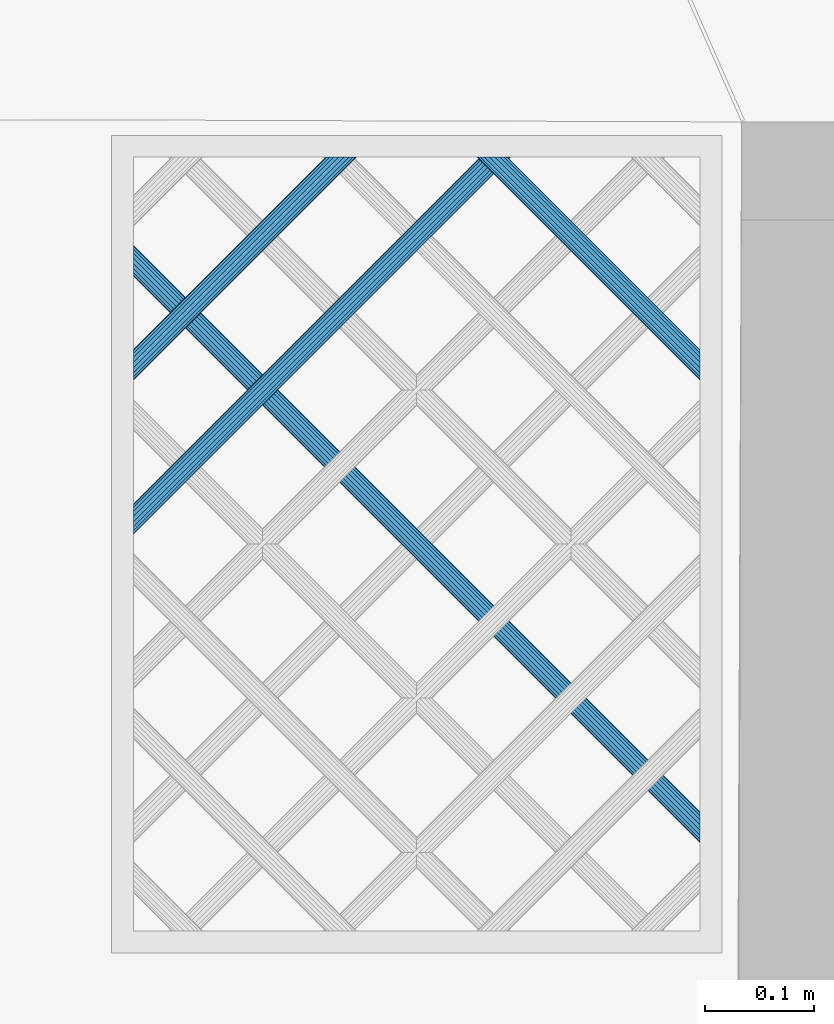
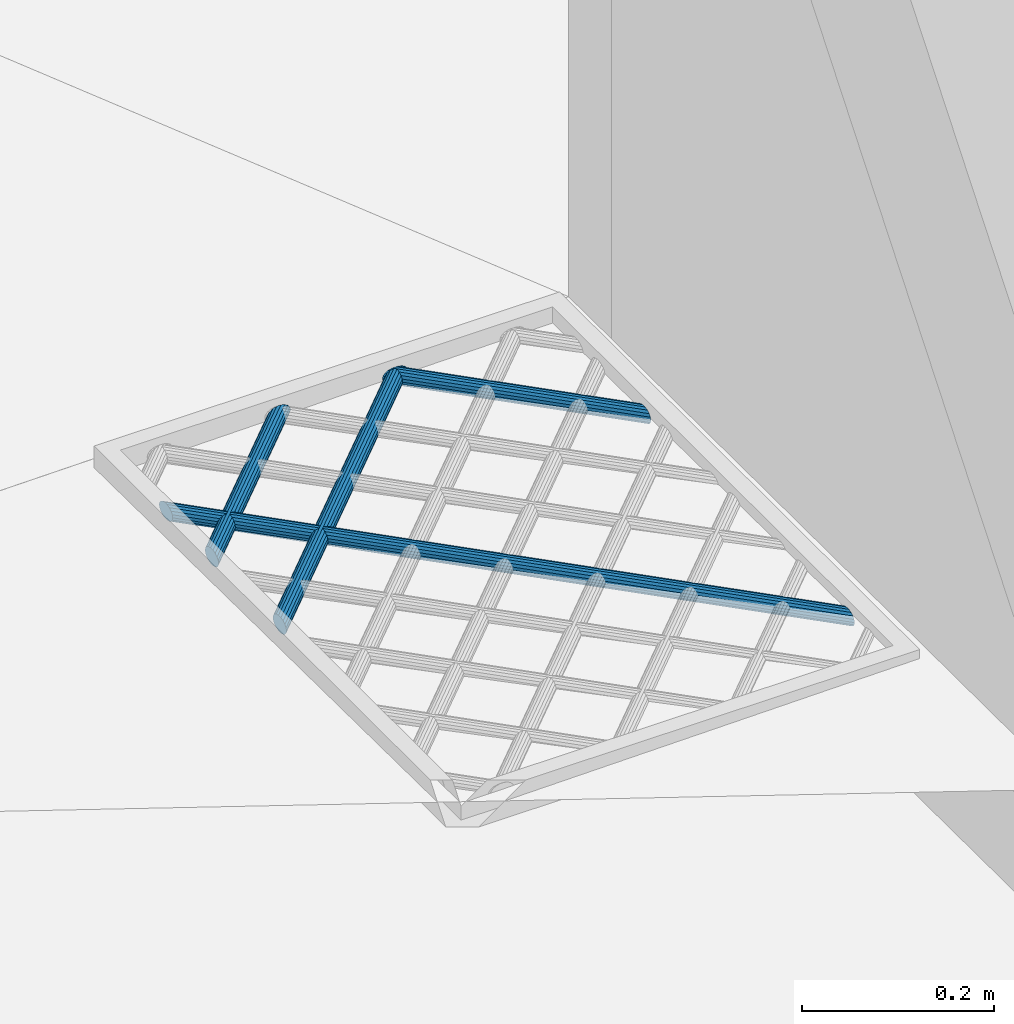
# One storey, part 54 of 133: 4 members, 1 element without a shape of its own.
"""IFC2X3 building model written with IfcOpenShell, lengths in centimetres."""

from ifc_helpers import new_model, entity, si_unit, converted_unit, direction, frame, origin, origin_with_axes, place, context, subcontext, project, spatial, faceted_brep, material, type_object, element, aggregate, save


model = new_model("IFC2X3")

# Units and contexts
model_context = context("Model", 3, precision=0.0001, world=origin(), true_north=direction((0.225632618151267, 0.974212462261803, 0.0)))
body_context = subcontext(model_context, "Body", "Model", "MODEL_VIEW")
ifc_project = project(units=[si_unit("LENGTHUNIT", "METRE", prefix="CENTI"), si_unit("AREAUNIT", "SQUARE_METRE", prefix="CENTI"), si_unit("VOLUMEUNIT", "CUBIC_METRE", prefix="CENTI"), converted_unit("PLANEANGLEUNIT", "DEGREE", entity("IfcRatioMeasure", 0.0174532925), si_unit("PLANEANGLEUNIT", "RADIAN"), dimensions=[0, 0, 0, 0, 0, 0, 0])], contexts=[model_context])

# Site, building, storey
site_placement = place(None, origin_with_axes())
site = spatial("IfcSite", under=ifc_project, at=site_placement, Name="Default Site", CompositionType="ELEMENT")
building_placement = place(site_placement, origin_with_axes())
building = spatial("IfcBuilding", under=site, at=building_placement, Name="Default Building", CompositionType="ELEMENT")
storey_placement = place(building_placement, frame((0.0, 0.0, -291.400371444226), z_axis=(0.0, 0.0, 1.0), x_axis=(1.0, 0.0, 0.0)))
storey = spatial("IfcBuildingStorey", under=building, at=storey_placement, Name="Rez-de-Jardin", CompositionType="ELEMENT", Elevation=-291.400371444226)

# Assembly, members
building_element_proxy_type = type_object("IfcBuildingElementProxyType", Name="Type Object", PredefinedType="NOTDEFINED")
assembly_placement = place(storey_placement, frame((-1322.94034957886, 694.801568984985, 108.0), z_axis=(0.0, 1.0, -2.38697950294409e-15), x_axis=(1.0, 0.0, 0.0)))
assembly = element("IfcElementAssembly", 1, at=assembly_placement, inside=storey, type_object=building_element_proxy_type, Name="Panneau 303645", ObjectType="Precast panel", PredefinedType="USERDEFINED")
ifc_material = material(Name="Aluminium satiné")
member_1_placement = place(assembly_placement, frame((22.4025189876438, 0.342020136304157, 73.0000019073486), z_axis=(1.16937634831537e-15, -1.43218776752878e-15, 1.0), x_axis=(0.632455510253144, -0.774596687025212, -1.84894641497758e-15)))
member_1 = element("IfcMember", 2, at=member_1_placement, material=ifc_material, Name="4294966981", context=body_context, shape_type="Brep", body=[
    faceted_brep([(6.66133814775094e-14, -2.22044604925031e-14, 5.55111512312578e-14), (-0.388289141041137, -2.22044604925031e-14, 5.4793225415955e-14), (-0.799165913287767, -0.150249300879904, 5.4033536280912e-14), (-1.18307196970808, -0.432624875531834, 5.33237145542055e-14), (-1.49370326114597, -0.813068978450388, 5.27493739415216e-14), (-1.69359245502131, -1.24569368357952, 5.2379789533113e-14), (-1.75863072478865, -1.67831892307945, 5.22595372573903e-14), (-1.68097287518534, -2.058763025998, 5.24031224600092e-14), (-1.46998625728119, -2.34113956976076, 5.27932254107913e-14), (-1.15111754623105, -2.49138806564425, 5.3382796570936e-14), (-0.76282840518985, -2.49138806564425, 5.41007223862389e-14), (-0.35195163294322, -2.34113876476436, 5.48604115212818e-14), (0.031954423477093, -2.05876319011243, 5.55702332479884e-14), (0.342585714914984, -1.67831908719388, 5.61445738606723e-14), (0.542474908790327, -1.24569438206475, 5.65141582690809e-14), (0.607513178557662, -0.813069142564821, 5.66344105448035e-14), (0.529855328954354, -0.432625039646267, 5.64908253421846e-14), (0.318868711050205, -0.150248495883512, 5.61007223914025e-14), (-12.6387579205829, -16.0200361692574, -20.4878091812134), (-12.3738302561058, -16.2363486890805, -20.4025208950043), (-12.1408567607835, -16.4265707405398, -20.1569437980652), (-11.9679375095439, -16.5677587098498, -19.7807013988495), (-11.8759290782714, -16.6428832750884, -19.3191707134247), (-11.8759290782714, -16.6428832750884, -18.8280165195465), (-11.9679375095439, -16.5677587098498, -18.3664858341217), (-12.1408567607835, -16.4265707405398, -17.990243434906), (-12.3738302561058, -16.2363486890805, -17.7446663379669), (-12.6387579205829, -16.0200361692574, -17.6593840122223), (-12.9036855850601, -15.8037236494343, -17.7446663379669), (-13.1366590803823, -15.613501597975, -17.990243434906), (-13.309578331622, -15.4723136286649, -18.3664858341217), (-13.4015867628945, -15.3971890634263, -18.8280165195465), (-13.4015867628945, -15.3971890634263, -19.3191707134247), (-13.309578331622, -15.4723136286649, -19.7807013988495), (-13.1366590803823, -15.613501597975, -20.1569437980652), (-12.9036855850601, -15.8037236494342, -20.4025208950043), (0.318868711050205, -0.150248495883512, 5.55111512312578e-14), (0.529855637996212, -0.432624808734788, -3.74318436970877e-07), (-12.3738306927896, -16.2363490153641, -20.402520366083), (-12.6387586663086, -16.0200367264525, -20.4878082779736), (0.529855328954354, -0.432625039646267, 5.55111512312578e-14), (0.607513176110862, -0.813069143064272, 1.93442058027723e-09), (-12.1408569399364, -16.4265707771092, -20.1569436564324), (-12.373831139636, -16.2363488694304, -20.4025201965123), (0.607513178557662, -0.813069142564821, 5.55111512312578e-14), (0.542475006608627, -1.24569439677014, -5.04749248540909e-08), (-11.9679381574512, -16.5677586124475, -19.7807010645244), (-12.1408569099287, -16.4265707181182, -20.1569437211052), (0.542474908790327, -1.24569438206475, 5.55111512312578e-14), (0.342585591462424, -1.67831903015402, 3.38954210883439e-08), (-11.8759295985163, -16.6428830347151, -19.3191705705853), (-11.9679379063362, -16.5677585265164, -19.7807012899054), (0.342585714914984, -1.67831908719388, 5.55111512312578e-14), (0.0319544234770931, -2.05876319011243, 5.55111512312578e-14), (0.031954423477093, -2.05876319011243, 5.55111512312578e-14), (-0.351951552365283, -2.3411388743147, 3.38954209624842e-08), (-11.9679375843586, -16.5677586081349, -18.3664858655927), (-11.8759292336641, -16.6428830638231, -18.8280165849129), (-0.35195163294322, -2.34113876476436, 5.55111512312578e-14), (-0.762828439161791, -2.49138797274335, -5.04749252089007e-08), (-12.1408567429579, -16.4265707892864, -17.990243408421), (-11.9679376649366, -16.5677582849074, -18.3664860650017), (-0.76282840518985, -2.49138806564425, 5.55111512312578e-14), (-1.15111754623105, -2.4913880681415, 1.93442137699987e-09), (-12.3738302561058, -16.2363481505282, -17.7446667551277), (-12.1408567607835, -16.4265709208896, -17.9902432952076), (-1.15111754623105, -2.49138806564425, 5.55111512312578e-14), (-1.46998609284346, -2.34113922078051, -3.74318437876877e-07), (-12.6387587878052, -16.0200380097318, -17.6593820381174), (-12.3738300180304, -16.2363481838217, -17.7446668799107), (-1.46998625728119, -2.34113956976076, 5.55111512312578e-14), (-1.6809731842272, -2.05876325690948, 3.7431854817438e-07), (-12.9036854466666, -15.8037235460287, -17.7446665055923), (-12.6387598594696, -16.0200376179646, -17.6593816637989), (-1.68097287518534, -2.058763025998, 5.55111512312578e-14), (-1.75863072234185, -1.67831892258, -1.93431162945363e-09), (-13.1366592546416, -15.6135016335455, -17.990243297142), (-12.903685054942, -15.8037235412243, -17.7446667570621), (-1.75863072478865, -1.67831892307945, 5.55111512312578e-14), (-1.69359255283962, -1.24569366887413, 5.04750364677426e-08), (-13.3095779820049, -15.4723136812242, -18.3664860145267), (-13.1366592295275, -15.6135015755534, -17.990243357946), (-1.69359245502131, -1.24569368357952, 5.55111512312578e-14), (-1.49370313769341, -0.813069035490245, -3.38953091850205e-08), (-13.4015864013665, -15.3971892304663, -18.8280166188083), (-13.3095780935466, -15.472313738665, -18.3664858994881), (-1.49370326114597, -0.813068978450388, 5.55111512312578e-14), (-1.18307196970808, -0.432624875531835, 5.55111512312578e-14), (-13.4015867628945, -15.3971890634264, -19.3191707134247), (-1.18307196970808, -0.432624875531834, 5.55111512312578e-14), (-0.799165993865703, -0.150249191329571, -3.38953095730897e-08), (-13.3095781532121, -15.4723138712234, -19.7807013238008), (-13.4015865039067, -15.3971894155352, -19.3191706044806), (-0.799165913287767, -0.150249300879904, 5.55111512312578e-14), (-0.388289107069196, -9.29009129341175e-08, 5.04750362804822e-08), (-13.1366589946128, -15.6135018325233, -20.1569436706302), (-13.3095780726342, -15.4723143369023, -19.7807010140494), (-0.388289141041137, -2.22044604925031e-14, 5.55111512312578e-14), (6.65876839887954e-14, 2.4972332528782e-09, -1.93431027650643e-09), (-12.9036855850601, -15.8037245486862, -20.4025201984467), (-13.1366590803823, -15.6135017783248, -20.1569436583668), (0.318868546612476, -0.150248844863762, 3.74318548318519e-07), (-12.638758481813, -16.0200373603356, -20.4878079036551), (-12.9036859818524, -15.8037244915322, -20.4025199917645)], [[[0, 1, 2, 3, 4, 5, 6, 7, 8, 9, 10, 11, 12, 13, 14, 15, 16, 17]], [[18, 19, 20, 21, 22, 23, 24, 25, 26, 27, 28, 29, 30, 31, 32, 33, 34, 35]], [[36, 37, 38, 39]], [[40, 41, 42, 43]], [[44, 45, 46, 47]], [[48, 49, 50, 51]], [[52, 53, 23, 22]], [[54, 55, 56, 57]], [[58, 59, 60, 61]], [[62, 63, 64, 65]], [[66, 67, 68, 69]], [[70, 71, 72, 73]], [[74, 75, 76, 77]], [[78, 79, 80, 81]], [[82, 83, 84, 85]], [[86, 87, 88, 31]], [[89, 90, 91, 92]], [[93, 94, 95, 96]], [[97, 98, 99, 100]], [[0, 101, 102, 103]]]),
])
member_2_placement = place(assembly_placement, frame((36.544653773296, 0.342020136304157, 73.0000019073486), z_axis=(1.16937492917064e-15, -1.4321947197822e-15, 1.0), x_axis=(0.632453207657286, -0.774598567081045, -1.84895090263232e-15)))
member_2 = element("IfcMember", 3, at=member_2_placement, material=ifc_material, Name="4294966980", context=body_context, shape_type="Brep", body=[
    faceted_brep([(4.44089209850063e-14, -2.77555756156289e-14, -4.44089209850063e-14), (-0.38828819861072, -2.22044604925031e-14, -4.51268468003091e-14), (-0.799165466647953, -0.150251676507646, -4.58865386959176e-14), (-1.18307068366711, -0.432628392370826, -4.65963605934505e-14), (-1.49370084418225, -0.813073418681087, -4.71707005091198e-14), (-1.69358875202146, -1.24569871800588, -4.75402834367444e-14), (-1.75862479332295, -1.6783229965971, -4.76605318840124e-14), (-1.68096675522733, -2.05876802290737, -4.75169459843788e-14), (-1.46997929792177, -2.34114393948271, -4.71268405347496e-14), (-1.15111014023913, -2.49139148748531, -4.65372671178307e-14), (-0.762820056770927, -2.49138917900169, -4.5819337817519e-14), (-0.351944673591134, -2.34113981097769, -4.50596494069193e-14), (0.0319605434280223, -2.05876309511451, -4.43498275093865e-14), (0.342590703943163, -1.67831806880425, -4.37754875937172e-14), (0.542478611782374, -1.24569276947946, -4.34059046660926e-14), (0.607516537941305, -0.813066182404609, -4.32856527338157e-14), (0.529856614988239, -0.432623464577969, -4.34292421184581e-14), (0.318869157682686, -0.15024754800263, -4.38193475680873e-14), (-21.5829488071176, -26.9745510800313, -34.6299439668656), (-21.3180204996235, -27.1908628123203, -34.5446556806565), (-21.0850464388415, -27.3810841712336, -34.2990815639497), (-20.9121267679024, -27.5222716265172, -33.9228361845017), (-20.8201181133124, -27.597395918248, -33.4613054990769), (-20.8201181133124, -27.597395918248, -32.970154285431), (-20.9121267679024, -27.5222716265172, -32.5086236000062), (-21.0850464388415, -27.3810841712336, -32.1323812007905), (-21.3180204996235, -27.1908628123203, -31.8868041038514), (-21.5829488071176, -26.9745510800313, -31.8015158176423), (-21.8478771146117, -26.7582393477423, -31.8868041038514), (-22.0808511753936, -26.568017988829, -32.1323812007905), (-22.2537708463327, -26.4268305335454, -32.5086236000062), (-22.3457795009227, -26.3517062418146, -32.970154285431), (-22.3457795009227, -26.3517062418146, -33.4613054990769), (-22.2537708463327, -26.4268305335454, -33.9228361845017), (-22.0808511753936, -26.568017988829, -34.2990815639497), (-21.8478771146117, -26.7582393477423, -34.5446556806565), (0.318869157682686, -0.15024754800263, -4.44089209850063e-14), (0.52985692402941, -0.432623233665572, -3.7431853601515e-07), (-21.3180209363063, -27.1908631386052, -34.5446551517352), (-21.5829495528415, -26.9745516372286, -34.6299430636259), (0.529856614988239, -0.432623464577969, -4.44089209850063e-14), (0.6075158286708, -0.813066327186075, 5.60727877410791e-07), (-21.0850480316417, -27.3810844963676, -34.2990803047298), (-21.3180213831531, -27.1908629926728, -34.5446549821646), (0.607516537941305, -0.813066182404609, -4.44089209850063e-14), (0.542479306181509, -1.24569287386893, -3.58315074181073e-07), (-20.9121268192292, -27.5222716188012, -33.9228361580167), (-21.0850471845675, -27.3810840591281, -34.2990811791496), (0.542478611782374, -1.24569276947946, -4.44089209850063e-14), (0.342590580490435, -1.67831801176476, 3.38953209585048e-08), (-20.820118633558, -27.5973956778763, -33.4613053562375), (-20.9121271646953, -27.522271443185, -33.9228360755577), (0.342590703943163, -1.67831806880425, -4.44089209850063e-14), (0.0319605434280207, -2.05876309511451, -4.44089209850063e-14), (0.0319605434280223, -2.05876309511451, -4.44089209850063e-14), (-0.35194459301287, -2.34113992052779, 3.38953212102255e-08), (-20.9121264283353, -27.5222720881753, -32.5086234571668), (-20.8201178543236, -27.5973962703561, -32.970154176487), (-0.351944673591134, -2.34113981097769, -4.44089209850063e-14), (-0.762819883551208, -2.49138965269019, 2.57365021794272e-07), (-21.0850460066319, -27.3810853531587, -32.1323805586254), (-20.9121265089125, -27.5222723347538, -32.5086232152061), (-0.762820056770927, -2.49138917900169, -4.44089209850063e-14), (-1.15111014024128, -2.4913907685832, -5.56859233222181e-07), (-21.3180204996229, -27.1908629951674, -31.8868039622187), (-21.0850464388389, -27.3810850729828, -32.1323805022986), (-1.15111014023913, -2.49139148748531, -4.44089209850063e-14), (-1.46997913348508, -2.34114359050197, -3.7431853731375e-07), (-21.5829490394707, -26.9745515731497, -31.801515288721), (-21.3180208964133, -27.1908636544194, -31.8868032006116), (-1.46997929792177, -2.34114393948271, -4.44089209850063e-14), (-1.6809670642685, -2.05876825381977, 3.74318446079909e-07), (-21.8478781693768, -26.7582401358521, -31.8868028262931), (-21.5829495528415, -26.9745516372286, -31.8015149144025), (-1.68096675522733, -2.05876802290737, -4.44089209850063e-14), (-1.75862549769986, -1.67832314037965, 5.56859144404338e-07), (-22.0808527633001, -26.5680183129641, -32.1323799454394), (-21.8478779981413, -26.7582395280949, -31.8868034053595), (-1.75862479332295, -1.6783229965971, -4.44089209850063e-14), (-1.69358825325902, -1.24569879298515, -2.57365109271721e-07), (-22.2537710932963, -26.4268304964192, -32.5086234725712), (-22.0808519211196, -26.5680178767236, -32.1323808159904), (-1.69358875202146, -1.24569871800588, -4.44089209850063e-14), (-1.49370072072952, -0.813073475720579, -3.38954097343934e-08), (-22.3457797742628, -26.3517061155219, -32.9701542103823), (-22.2537712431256, -26.4268303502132, -32.5086234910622), (-1.49370084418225, -0.813073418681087, -4.44089209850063e-14), (-1.18307068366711, -0.432628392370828, -4.44089209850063e-14), (-1.18307068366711, -0.432628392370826, -4.44089209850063e-14), (-0.799165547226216, -0.15025156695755, -3.38954100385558e-08), (-22.2537706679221, -26.4268307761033, -33.9228361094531), (-22.3457792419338, -26.3517065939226, -33.4613053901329), (-0.799165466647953, -0.150251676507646, -4.44089209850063e-14), (-0.388287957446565, -6.59490106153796e-07, 3.58314986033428e-07), (-22.0808506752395, -26.5680193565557, -34.2990808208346), (-22.2537705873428, -26.426831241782, -33.9228357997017), (-0.38828819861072, -2.22044604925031e-14, -4.44089209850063e-14), (-2.11492048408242e-12, 7.23896598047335e-07, -5.6072796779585e-07), (-21.8478771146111, -26.7582395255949, -34.5446555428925), (-22.0808511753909, -26.5680188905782, -34.2990808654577), (0.318868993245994, -0.150247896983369, 3.74318448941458e-07), (-21.582949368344, -26.9745522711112, -34.6299426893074), (-21.8478775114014, -26.7582401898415, -34.5446547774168)], [[[0, 1, 2, 3, 4, 5, 6, 7, 8, 9, 10, 11, 12, 13, 14, 15, 16, 17]], [[18, 19, 20, 21, 22, 23, 24, 25, 26, 27, 28, 29, 30, 31, 32, 33, 34, 35]], [[36, 37, 38, 39]], [[40, 41, 42, 43]], [[44, 45, 46, 47]], [[48, 49, 50, 51]], [[52, 53, 23, 22]], [[54, 55, 56, 57]], [[58, 59, 60, 61]], [[62, 63, 64, 65]], [[66, 67, 68, 69]], [[70, 71, 72, 73]], [[74, 75, 76, 77]], [[78, 79, 80, 81]], [[82, 83, 84, 85]], [[86, 87, 32, 31]], [[88, 89, 90, 91]], [[92, 93, 94, 95]], [[96, 97, 98, 99]], [[0, 100, 101, 102]]]),
])
member_3_placement = place(assembly_placement, frame((54.0000021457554, 0.342020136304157, 52.5974810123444), z_axis=(0.999999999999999, 0.0, 0.0), x_axis=(0.0, -0.774594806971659, -0.632457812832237)))
member_3 = element("IfcMember", 4, at=member_3_placement, material=ifc_material, Name="4294966972", context=body_context, shape_type="Brep", body=[
    faceted_brep([(5.55111512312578e-14, -1.66533453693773e-14, -1.55431223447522e-13), (-0.388290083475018, -2.22044604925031e-14, -1.55431223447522e-13), (-0.79916635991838, -0.150246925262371, -1.55431223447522e-13), (-1.18307325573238, -0.432621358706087, -1.55431223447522e-13), (-1.49370756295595, -0.813066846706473, -1.55431223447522e-13), (-1.69359804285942, -1.24569095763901, -1.55431223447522e-13), (-1.75863665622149, -1.67831484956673, -1.55431223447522e-13), (-1.68098087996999, -2.05876033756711, -1.55431223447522e-13), (-1.46999133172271, -2.34113289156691, -1.55431223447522e-13), (-1.15112683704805, -2.49138695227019, -1.55431223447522e-13), (-0.762836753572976, -2.49138695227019, -1.55431223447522e-13), (-0.351960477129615, -2.34114002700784, -1.55431223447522e-13), (0.031946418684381, -2.05876559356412, -1.55431223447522e-13), (0.342580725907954, -1.67832010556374, -1.55431223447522e-13), (0.542471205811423, -1.24569599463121, -1.55431223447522e-13), (0.607509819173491, -0.813072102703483, -1.55431223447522e-13), (0.529854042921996, -0.432626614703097, -1.55431223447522e-13), (0.318868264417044, -0.150249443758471, -1.55431223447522e-13), (-12.6388067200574, -16.0200000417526, -20.4878091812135), (-12.3738796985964, -16.2363133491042, -20.4025208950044), (-12.1409067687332, -16.4265360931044, -20.1569467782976), (-11.9679879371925, -16.5677245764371, -19.7807013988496), (-11.8759797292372, -16.6428494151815, -19.3191707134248), (-11.8759797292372, -16.6428494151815, -18.8280194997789), (-11.9679879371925, -16.5677245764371, -18.3664888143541), (-12.1409067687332, -16.4265360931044, -17.9902434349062), (-12.3738796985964, -16.2363133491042, -17.7446693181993), (-12.6388067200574, -16.0200000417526, -17.6593810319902), (-12.9037337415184, -15.8036867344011, -17.7446693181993), (-13.1367066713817, -15.6134639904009, -17.9902434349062), (-13.3096255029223, -15.4722755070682, -18.3664888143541), (-13.4016337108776, -15.3971506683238, -18.8280194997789), (-13.4016337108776, -15.3971506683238, -19.3191707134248), (-13.3096255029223, -15.4722755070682, -19.7807013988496), (-13.1367066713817, -15.6134639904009, -20.1569467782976), (-12.9037337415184, -15.8036867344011, -20.4025208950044), (0.52985435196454, -0.432626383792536, -3.74318648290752e-07), (-12.3738793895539, -16.2363131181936, -20.4025212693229), (0.607510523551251, -0.813071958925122, -5.56859344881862e-07), (-12.1409074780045, -16.4265362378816, -20.1569462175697), (0.542470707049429, -1.24569591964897, 2.57364909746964e-07), (-11.9679884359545, -16.5677245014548, -19.7807011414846), (-12.1409079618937, -16.4265359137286, -20.1569461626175), (0.342580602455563, -1.67832004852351, 3.38952102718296e-08), (-11.8759798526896, -16.6428493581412, -19.3191706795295), (0.031946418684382, -2.05876559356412, -1.55431223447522e-13), (-0.351960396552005, -2.34114013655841, 3.38952089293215e-08), (-11.9679874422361, -16.567725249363, -18.3664886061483), (-11.8759793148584, -16.6428499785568, -18.8280193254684), (-0.762836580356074, -2.49138742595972, 2.57364911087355e-07), (-12.1409065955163, -16.4265365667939, -17.9902431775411), (-11.9679875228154, -16.5677257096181, -18.366488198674), (-1.15112683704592, -2.49138623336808, -5.56859344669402e-07), (-12.3738796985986, -16.2363140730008, -17.7446687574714), (-1.46999243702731, -2.34113523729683, 2.51604858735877e-06), (-12.6388071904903, -16.0200010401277, -17.6593799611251), (-12.3738803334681, -16.236314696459, -17.7446678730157), (-1.68097880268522, -2.05875878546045, -2.51604889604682e-06), (-12.9037328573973, -15.8036860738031, -17.7446703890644), (-12.6388055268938, -16.019999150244, -17.6593824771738), (-1.75863736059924, -1.67831499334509, 5.56859033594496e-07), (-13.1367073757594, -15.6134641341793, -17.990242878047), (-12.9037351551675, -15.8036870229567, -17.7446682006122), (-1.69359754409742, -1.24569103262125, -2.57365220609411e-07), (-13.3096261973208, -15.4722754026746, -18.3664884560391), (-1.49370743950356, -0.8130669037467, -3.38955217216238e-08), (-13.401634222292, -15.3971504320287, -18.8280193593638), (-13.3096261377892, -15.4722752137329, -18.3664886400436), (-1.18307325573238, -0.432621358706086, -1.55431223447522e-13), (-0.799166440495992, -0.150246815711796, -3.38955209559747e-08), (-13.3096255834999, -15.4722753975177, -19.780701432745), (-0.388290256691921, 4.7368950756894e-07, -2.57365221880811e-07), (-13.1367064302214, -15.6134646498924, -20.1569464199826), (-2.07411420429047e-12, -7.18902131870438e-07, 5.56859036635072e-07), (-12.9037337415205, -15.8036874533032, -20.4025203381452), (-13.1367066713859, -15.6134654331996, -20.1569456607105), (0.318868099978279, -0.15024979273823, 3.7431833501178e-07), (-12.6388068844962, -16.0200003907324, -20.487808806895)], [[[0, 1, 2, 3, 4, 5, 6, 7, 8, 9, 10, 11, 12, 13, 14, 15, 16, 17]], [[18, 19, 20, 21, 22, 23, 24, 25, 26, 27, 28, 29, 30, 31, 32, 33, 34, 35]], [[17, 36, 37, 18]], [[16, 38, 39, 19]], [[15, 40, 41, 42]], [[14, 43, 44, 21]], [[13, 45, 23, 22]], [[12, 46, 47, 48]], [[11, 49, 50, 51]], [[10, 52, 53, 25]], [[9, 54, 55, 56]], [[8, 57, 58, 59]], [[7, 60, 61, 62]], [[6, 63, 64, 29]], [[5, 65, 66, 67]], [[4, 68, 32, 31]], [[3, 69, 70, 32]], [[2, 71, 72, 33]], [[1, 73, 74, 75]], [[0, 76, 77, 35]]]),
])
member_4_placement = place(assembly_placement, frame((54.0000021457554, 0.342020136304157, 10.1710736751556), z_axis=(0.999999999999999, 0.0, 0.0), x_axis=(0.0, -0.774596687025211, -0.632455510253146)))
member_4 = element("IfcMember", 5, at=member_4_placement, material=ifc_material, Name="4294966969", context=body_context, shape_type="Brep", body=[
    faceted_brep([(9.15933995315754e-14, 1.80411241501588e-14, 1.99840144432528e-13), (-0.388289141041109, 1.80411241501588e-14, 1.99840144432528e-13), (-0.799165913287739, -0.150249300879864, 1.99840144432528e-13), (-1.18307244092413, -0.432625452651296, 1.99840144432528e-13), (-1.49370373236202, -0.81306955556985, 1.99840144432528e-13), (-1.69359292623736, -1.24569426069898, 1.99840144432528e-13), (-1.75863166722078, -1.67832007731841, 1.99840144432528e-13), (-1.68097381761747, -2.05876418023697, 1.99840144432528e-13), (-1.46998625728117, -2.34113956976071, 1.99840144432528e-13), (-1.15111848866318, -2.49138921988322, 1.99840144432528e-13), (-0.762829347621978, -2.49138921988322, 1.99840144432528e-13), (-0.351952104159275, -2.34113934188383, 1.99840144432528e-13), (0.0319539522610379, -2.0587637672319, 1.99840144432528e-13), (0.34258524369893, -1.67831966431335, 1.99840144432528e-13), (0.542474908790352, -1.24569438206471, 1.99840144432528e-13), (0.607513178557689, -0.813069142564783, 1.99840144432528e-13), (0.52985532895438, -0.43262503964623, 1.99840144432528e-13), (0.318868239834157, -0.15024907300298, 1.99840144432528e-13), (-32.5688166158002, -40.4292747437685, -52.0000021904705), (-32.3578299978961, -40.7116512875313, -52.0000021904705), (-32.2801730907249, -41.0920965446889, -52.0000021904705), (-32.3452104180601, -41.5247206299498, -52.0000021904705), (-32.5450996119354, -41.9573453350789, -52.0000021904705), (-32.8557327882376, -42.3377917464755, -52.0000021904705), (-33.239638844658, -42.6201673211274, -52.0000021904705), (-33.6505146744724, -42.7704154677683, -52.0000021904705), (-34.0388047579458, -42.7704166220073, -52.0000021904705), (-34.3576734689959, -42.6201681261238, -52.0000021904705), (-34.5686600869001, -42.337791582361, -52.0000021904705), (-34.6463169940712, -41.9573463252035, -52.0000021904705), (-34.581279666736, -41.5247222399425, -52.0000021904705), (-34.3813904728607, -41.0920975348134, -52.0000021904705), (-34.0707572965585, -40.7116511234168, -52.0000021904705), (-33.6868512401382, -40.4292755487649, -52.0000021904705), (-33.2759754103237, -40.279027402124, -52.0000021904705), (-32.8876853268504, -40.279026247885, -52.0000021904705), (0.529855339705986, -0.43262503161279, -1.30223884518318e-08), (-32.3578316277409, -40.7116525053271, -52.0000002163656), (-32.5688185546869, -40.4292761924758, -51.9999998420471), (0.607513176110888, -0.813069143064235, 1.93456629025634e-09), (-32.280174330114, -41.0920967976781, -52.0000012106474), (-32.3578319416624, -40.711651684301, -52.0000006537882), (0.542475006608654, -1.2456943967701, -5.04747815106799e-08), (-32.3452119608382, -41.5247203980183, -52.0000013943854), (-32.2801741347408, -41.0920963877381, -52.0000016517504), (0.342585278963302, -1.67831968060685, -9.68205213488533e-09), (-32.5451006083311, -41.9573448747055, -52.0000019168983), (-32.3452112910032, -41.5247202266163, -52.0000019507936), (-0.351952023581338, -2.34113945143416, 3.3895565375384e-08), (-33.2396385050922, -42.6201677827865, -52.0000020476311), (-32.8557325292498, -42.3377920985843, -52.0000020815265), (-0.762829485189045, -2.49138884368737, -2.04394804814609e-07), (-33.6505142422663, -42.7704166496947, -52.0000015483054), (-33.2396385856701, -42.6201680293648, -52.0000018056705), (-1.15111848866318, -2.49138922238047, 1.93456549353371e-09), (-34.0388047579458, -42.7704178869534, -52.0000012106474), (-33.6505146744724, -42.7704174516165, -52.0000006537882), (-1.46998641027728, -2.34113989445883, 3.48273515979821e-07), (-34.3576738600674, -42.6201689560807, -52.0000013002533), (-34.038805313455, -42.7704178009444, -52.0000009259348), (-1.68097353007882, -2.05876396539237, -3.48273116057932e-07), (-34.5686608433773, -42.3377921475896, -52.0000012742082), (-34.3576739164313, -42.6201684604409, -52.0000016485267), (-1.75863166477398, -1.67832007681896, -1.93416623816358e-09), (-34.6463189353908, -41.9573467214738, -52.0000006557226), (-34.5686613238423, -42.3377918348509, -52.0000012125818), (-1.69359332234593, -1.24569420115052, 2.04395204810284e-07), (-34.5812808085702, -41.5247220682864, -52.0000016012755), (-34.6463186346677, -41.9573460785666, -52.0000013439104), (-1.49370360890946, -0.813069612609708, -3.38951655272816e-08), (-34.3813907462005, -41.0920974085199, -52.0000021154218), (-34.5812800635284, -41.5247220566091, -52.0000020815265), (-0.799165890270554, -0.150249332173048, 9.68245175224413e-09), (-33.6868506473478, -40.4292763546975, -52.0000019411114), (-34.0707566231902, -40.7116520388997, -52.000001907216), (-0.388289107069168, -9.2900873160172e-08, 5.04751808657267e-08), (-33.2759750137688, -40.2790284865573, -52.0000016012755), (-33.686850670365, -40.4292771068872, -52.0000013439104), (9.15677020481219e-14, 2.49727324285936e-09, -1.93416574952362e-09), (-32.8876853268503, -40.279028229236, -52.0000006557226), (-33.2759754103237, -40.2790286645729, -52.0000012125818), (0.318868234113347, -0.150249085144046, 1.30227874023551e-08), (-32.568817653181, -40.4292769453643, -51.9999998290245), (-32.8876861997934, -40.2790281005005, -52.000000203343)], [[[0, 1, 2, 3, 4, 5, 6, 7, 8, 9, 10, 11, 12, 13, 14, 15, 16, 17]], [[18, 19, 20, 21, 22, 23, 24, 25, 26, 27, 28, 29, 30, 31, 32, 33, 34, 35]], [[17, 36, 37, 38]], [[16, 39, 40, 41]], [[15, 42, 43, 44]], [[14, 45, 46, 47]], [[13, 12, 23, 22]], [[12, 48, 49, 50]], [[11, 51, 52, 53]], [[10, 54, 55, 56]], [[9, 57, 58, 59]], [[8, 60, 61, 62]], [[7, 63, 64, 65]], [[6, 66, 67, 68]], [[5, 69, 70, 71]], [[4, 3, 32, 31]], [[3, 72, 73, 74]], [[2, 75, 76, 77]], [[1, 78, 79, 80]], [[0, 81, 82, 83]]]),
])
aggregate(assembly, [member_1, member_2, member_3, member_4])

save(model, "model.ifc")
